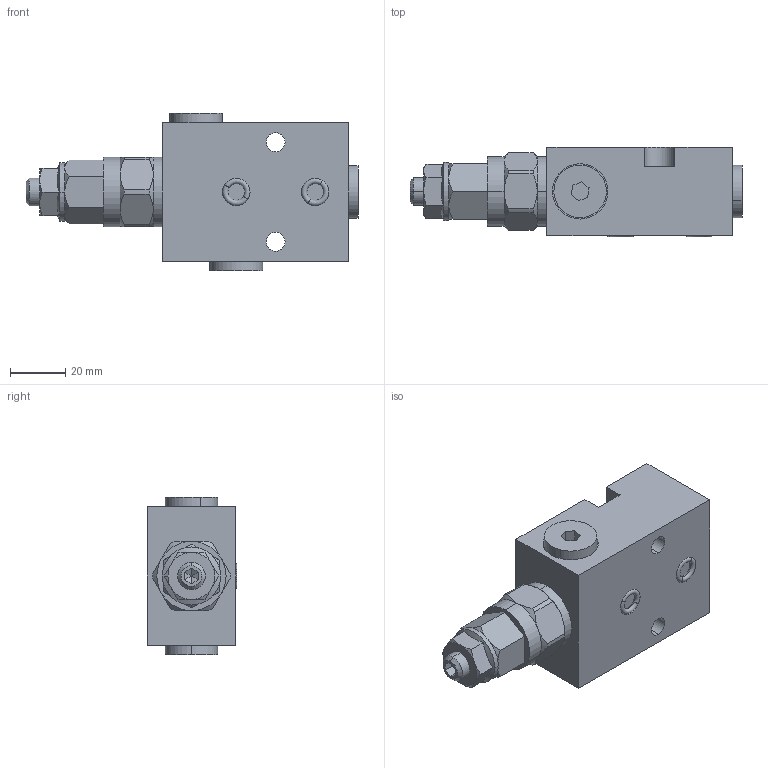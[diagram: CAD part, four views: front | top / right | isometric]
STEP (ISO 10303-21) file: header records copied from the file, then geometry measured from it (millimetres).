
FILE_DESCRIPTION((''),'2;1');
FILE_NAME('BU80320-SEQUENCE_VALVE_ASM','2022-11-04T11:04:19',('Nsp User'),(''),'CREO PARAMETRIC BY PTC INC, 2019471','CREO PARAMETRIC BY PTC INC, 2019471','');
FILE_SCHEMA(('CONFIG_CONTROL_DESIGN','SHAPE_APPEARANCE_LAYERS_GROUPS'));
Length unit declared in the file: millimetre
Products named in the file (7): SQ_BODY; ORING_ID_6X2_-2_SQ; 1-4_CLOSE-PLUG-SHORT-3_SQ; ORING_ID_6X2_-1_SQ; 1-4_CLOSE-PLUG-SHORT-2_SQ; 1-4_CLOSE-PLUG-SHORT-1_SQ; BU80320-SEQUENCE_VALVE_ASM
Assembly tree (6 placements, depth 2):
  BU80320-SEQUENCE_VALVE_ASM
    SQ_BODY
    ORING_ID_6X2_-2_SQ
    1-4_CLOSE-PLUG-SHORT-3_SQ
    ORING_ID_6X2_-1_SQ
    1-4_CLOSE-PLUG-SHORT-2_SQ
    1-4_CLOSE-PLUG-SHORT-1_SQ
Bounding box: 120 x 32.4 x 57 mm (x, y, z)
Volume: 127239.6 mm3; surface area: 24807.7 mm2
Topology: 6 solids, 22 shells, 179 faces, 614 edges, 473 vertices
Faces by surface type: plane 95, cylinder 46, cone 30, torus 8
Entity records: 9542 total; most frequent: CARTESIAN_POINT 2204, ORIENTED_EDGE 982, DIRECTION 975, PRESENTATION_STYLE_ASSIGNMENT 645, STYLED_ITEM 625, CURVE_STYLE 614, EDGE_CURVE 614, VERTEX_POINT 473
